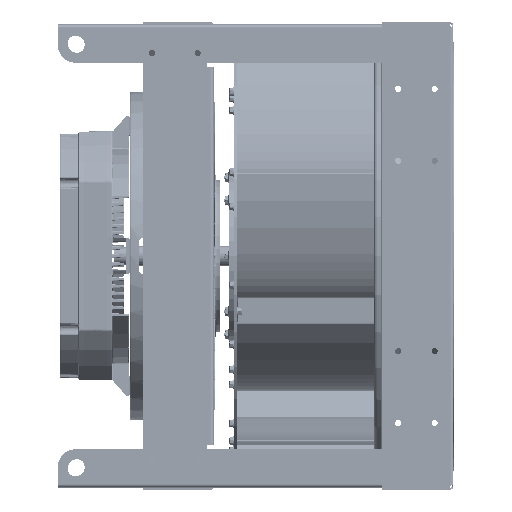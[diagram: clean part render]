
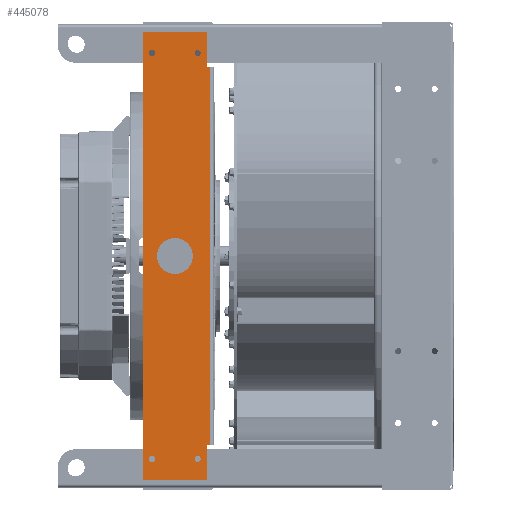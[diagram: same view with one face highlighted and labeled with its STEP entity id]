
A CAD part, left-side view. The second image highlights one B-rep face of the part: STEP entity #445078.
In plain terms, the highlighted planar face has unit normal (-1, 0, 0) as drawn and (0, 0, 1) by its records, which use the part's own axes.
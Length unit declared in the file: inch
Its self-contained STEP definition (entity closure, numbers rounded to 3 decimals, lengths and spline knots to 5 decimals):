
#117 = ORIENTED_EDGE ( 'NONE', *, *, #356224, .F. ) ;
#1610 = LINE ( 'NONE', #233511, #305157 ) ;
#3751 = CARTESIAN_POINT ( 'NONE',  ( 0., 0., 0.135 ) ) ;
#5622 = VERTEX_POINT ( 'NONE', #17414 ) ;
#7367 = DIRECTION ( 'NONE',  ( 0., 0., 1. ) ) ;
#7783 = CARTESIAN_POINT ( 'NONE',  ( -11.305, -1.27, 0.135 ) ) ;
#13636 = CIRCLE ( 'NONE', #171734, 0.172 ) ;
#17414 = CARTESIAN_POINT ( 'NONE',  ( -12.465, 1.77, 0.135 ) ) ;
#17927 = AXIS2_PLACEMENT_3D ( 'NONE', #3751, #201904, #278263 ) ;
#35951 = EDGE_CURVE ( 'NONE', #383442, #383442, #249097, .T. ) ;
#37273 = CARTESIAN_POINT ( 'NONE',  ( -10.555, 1.9775, 0.135 ) ) ;
#41966 = ORIENTED_EDGE ( 'NONE', *, *, #73666, .T. ) ;
#43840 = CARTESIAN_POINT ( 'NONE',  ( 12.465, 1.77, 0.135 ) ) ;
#46416 = VERTEX_POINT ( 'NONE', #284994 ) ;
#51285 = DIRECTION ( 'NONE',  ( 0., 0., 1. ) ) ;
#54929 = LINE ( 'NONE', #126889, #300260 ) ;
#55725 = FACE_BOUND ( 'NONE', #346102, .T. ) ;
#58255 = EDGE_LOOP ( 'NONE', ( #76803, #392648, #226220, #373885, #117, #130389, #257892, #41966 ) ) ;
#60304 = VECTOR ( 'NONE', #305866, 39.37008 ) ;
#67674 = DIRECTION ( 'NONE',  ( -1., 0., 0. ) ) ;
#73666 = EDGE_CURVE ( 'NONE', #332439, #5622, #358049, .T. ) ;
#76775 = DIRECTION ( 'NONE',  ( -1., 0., 0. ) ) ;
#76803 = ORIENTED_EDGE ( 'NONE', *, *, #205802, .T. ) ;
#79863 = EDGE_LOOP ( 'NONE', ( #342231 ) ) ;
#82273 = EDGE_LOOP ( 'NONE', ( #434101 ) ) ;
#83043 = VERTEX_POINT ( 'NONE', #321668 ) ;
#84457 = CARTESIAN_POINT ( 'NONE',  ( 10.555, 1.77, 0.135 ) ) ;
#86366 = VERTEX_POINT ( 'NONE', #43840 ) ;
#90585 = CARTESIAN_POINT ( 'NONE',  ( -12.465, -1.77, 0.135 ) ) ;
#95405 = AXIS2_PLACEMENT_3D ( 'NONE', #7783, #352089, #426281 ) ;
#99939 = VECTOR ( 'NONE', #400710, 39.37008 ) ;
#102569 = LINE ( 'NONE', #377186, #386972 ) ;
#116761 = VERTEX_POINT ( 'NONE', #337362 ) ;
#117548 = CIRCLE ( 'NONE', #412273, 1. ) ;
#118620 = CARTESIAN_POINT ( 'NONE',  ( 0., 0., 0.135 ) ) ;
#126889 = CARTESIAN_POINT ( 'NONE',  ( -12.465, -1.77, 0.135 ) ) ;
#127166 = ORIENTED_EDGE ( 'NONE', *, *, #217467, .F. ) ;
#130389 = ORIENTED_EDGE ( 'NONE', *, *, #178686, .T. ) ;
#133215 = EDGE_LOOP ( 'NONE', ( #350898 ) ) ;
#144624 = DIRECTION ( 'NONE',  ( 1., 0., 0. ) ) ;
#160045 = CIRCLE ( 'NONE', #95405, 0.172 ) ;
#161723 = CARTESIAN_POINT ( 'NONE',  ( -11.477, -1.27, 0.135 ) ) ;
#168562 = LINE ( 'NONE', #341878, #60304 ) ;
#171734 = AXIS2_PLACEMENT_3D ( 'NONE', #294345, #51285, #325863 ) ;
#178686 = EDGE_CURVE ( 'NONE', #116761, #281408, #168562, .T. ) ;
#188582 = FACE_OUTER_BOUND ( 'NONE', #58255, .T. ) ;
#193069 = FACE_BOUND ( 'NONE', #79863, .T. ) ;
#193158 = EDGE_CURVE ( 'NONE', #223076, #86366, #1610, .T. ) ;
#195266 = FACE_BOUND ( 'NONE', #82273, .T. ) ;
#198990 = VECTOR ( 'NONE', #318590, 39.37008 ) ;
#200122 = EDGE_CURVE ( 'NONE', #237602, #223076, #54929, .T. ) ;
#201904 = DIRECTION ( 'NONE',  ( 0., 0., -1. ) ) ;
#205802 = EDGE_CURVE ( 'NONE', #5622, #237602, #102569, .T. ) ;
#208075 = EDGE_CURVE ( 'NONE', #210854, #210854, #13636, .T. ) ;
#210854 = VERTEX_POINT ( 'NONE', #440539 ) ;
#215604 = DIRECTION ( 'NONE',  ( 0., 0., 1. ) ) ;
#216348 = CARTESIAN_POINT ( 'NONE',  ( -12.465, 1.77, 0.135 ) ) ;
#217467 = EDGE_CURVE ( 'NONE', #46416, #46416, #117548, .T. ) ;
#223076 = VERTEX_POINT ( 'NONE', #386651 ) ;
#226220 = ORIENTED_EDGE ( 'NONE', *, *, #193158, .T. ) ;
#233511 = CARTESIAN_POINT ( 'NONE',  ( 12.465, -1.77, 0.135 ) ) ;
#237602 = VERTEX_POINT ( 'NONE', #90585 ) ;
#238717 = CARTESIAN_POINT ( 'NONE',  ( 11.305, 1.27, 0.135 ) ) ;
#239942 = DIRECTION ( 'NONE',  ( 0., -1., 0. ) ) ;
#245325 = DIRECTION ( 'NONE',  ( 0., 0., 1. ) ) ;
#246178 = CARTESIAN_POINT ( 'NONE',  ( 11.133, 1.27, 0.135 ) ) ;
#249097 = CIRCLE ( 'NONE', #357015, 0.172 ) ;
#253279 = CARTESIAN_POINT ( 'NONE',  ( 10.555, 1.9775, 0.135 ) ) ;
#257892 = ORIENTED_EDGE ( 'NONE', *, *, #285960, .T. ) ;
#260429 = DIRECTION ( 'NONE',  ( 1., 0., 0. ) ) ;
#262398 = EDGE_CURVE ( 'NONE', #86366, #418537, #353599, .T. ) ;
#262662 = VECTOR ( 'NONE', #76775, 39.37008 ) ;
#262785 = FACE_BOUND ( 'NONE', #133215, .T. ) ;
#271343 = CIRCLE ( 'NONE', #278667, 0.172 ) ;
#278263 = DIRECTION ( 'NONE',  ( -1., 0., 0. ) ) ;
#278667 = AXIS2_PLACEMENT_3D ( 'NONE', #315676, #7367, #144624 ) ;
#278911 = VECTOR ( 'NONE', #337372, 39.37008 ) ;
#281408 = VERTEX_POINT ( 'NONE', #419861 ) ;
#284994 = CARTESIAN_POINT ( 'NONE',  ( 1., 0., 0.135 ) ) ;
#285960 = EDGE_CURVE ( 'NONE', #281408, #332439, #335133, .T. ) ;
#294345 = CARTESIAN_POINT ( 'NONE',  ( 11.305, -1.27, 0.135 ) ) ;
#300260 = VECTOR ( 'NONE', #367675, 39.37008 ) ;
#305157 = VECTOR ( 'NONE', #413405, 39.37008 ) ;
#305649 = VERTEX_POINT ( 'NONE', #161723 ) ;
#305866 = DIRECTION ( 'NONE',  ( -1., 0., 0. ) ) ;
#315676 = CARTESIAN_POINT ( 'NONE',  ( -11.305, 1.27, 0.135 ) ) ;
#318590 = DIRECTION ( 'NONE',  ( 0., -1., 0. ) ) ;
#321668 = CARTESIAN_POINT ( 'NONE',  ( -11.133, 1.27, 0.135 ) ) ;
#325863 = DIRECTION ( 'NONE',  ( 1., 0., 0. ) ) ;
#328781 = CARTESIAN_POINT ( 'NONE',  ( -12.465, 1.77, 0.135 ) ) ;
#332439 = VERTEX_POINT ( 'NONE', #409254 ) ;
#335133 = LINE ( 'NONE', #37273, #278911 ) ;
#337362 = CARTESIAN_POINT ( 'NONE',  ( 10.555, 1.9775, 0.135 ) ) ;
#337372 = DIRECTION ( 'NONE',  ( 0., -1., 0. ) ) ;
#341878 = CARTESIAN_POINT ( 'NONE',  ( 10.555, 1.9775, 0.135 ) ) ;
#342231 = ORIENTED_EDGE ( 'NONE', *, *, #378841, .F. ) ;
#346102 = EDGE_LOOP ( 'NONE', ( #127166 ) ) ;
#350343 = EDGE_CURVE ( 'NONE', #83043, #83043, #271343, .T. ) ;
#350493 = ORIENTED_EDGE ( 'NONE', *, *, #208075, .F. ) ;
#350898 = ORIENTED_EDGE ( 'NONE', *, *, #350343, .F. ) ;
#352089 = DIRECTION ( 'NONE',  ( 0., 0., 1. ) ) ;
#353599 = LINE ( 'NONE', #216348, #262662 ) ;
#356224 = EDGE_CURVE ( 'NONE', #116761, #418537, #422119, .T. ) ;
#357015 = AXIS2_PLACEMENT_3D ( 'NONE', #238717, #245325, #67674 ) ;
#358049 = LINE ( 'NONE', #328781, #99939 ) ;
#367675 = DIRECTION ( 'NONE',  ( 1., 0., 0. ) ) ;
#373885 = ORIENTED_EDGE ( 'NONE', *, *, #262398, .T. ) ;
#377186 = CARTESIAN_POINT ( 'NONE',  ( -12.465, -1.77, 0.135 ) ) ;
#378841 = EDGE_CURVE ( 'NONE', #305649, #305649, #160045, .T. ) ;
#383442 = VERTEX_POINT ( 'NONE', #246178 ) ;
#386651 = CARTESIAN_POINT ( 'NONE',  ( 12.465, -1.77, 0.135 ) ) ;
#386972 = VECTOR ( 'NONE', #239942, 39.37008 ) ;
#392648 = ORIENTED_EDGE ( 'NONE', *, *, #200122, .T. ) ;
#400045 = FACE_BOUND ( 'NONE', #410267, .T. ) ;
#400710 = DIRECTION ( 'NONE',  ( -1., 0., 0. ) ) ;
#408929 = PLANE ( 'NONE',  #17927 ) ;
#409254 = CARTESIAN_POINT ( 'NONE',  ( -10.555, 1.77, 0.135 ) ) ;
#410267 = EDGE_LOOP ( 'NONE', ( #350493 ) ) ;
#412273 = AXIS2_PLACEMENT_3D ( 'NONE', #118620, #215604, #260429 ) ;
#413405 = DIRECTION ( 'NONE',  ( 0., 1., 0. ) ) ;
#418537 = VERTEX_POINT ( 'NONE', #84457 ) ;
#419861 = CARTESIAN_POINT ( 'NONE',  ( -10.555, 1.9775, 0.135 ) ) ;
#422119 = LINE ( 'NONE', #253279, #198990 ) ;
#426281 = DIRECTION ( 'NONE',  ( -1., 0., 0. ) ) ;
#434101 = ORIENTED_EDGE ( 'NONE', *, *, #35951, .F. ) ;
#440539 = CARTESIAN_POINT ( 'NONE',  ( 11.477, -1.27, 0.135 ) ) ;
#445078 = ADVANCED_FACE ( 'NONE', ( #55725, #188582, #193069, #262785, #400045, #195266 ), #408929, .F. ) ;
